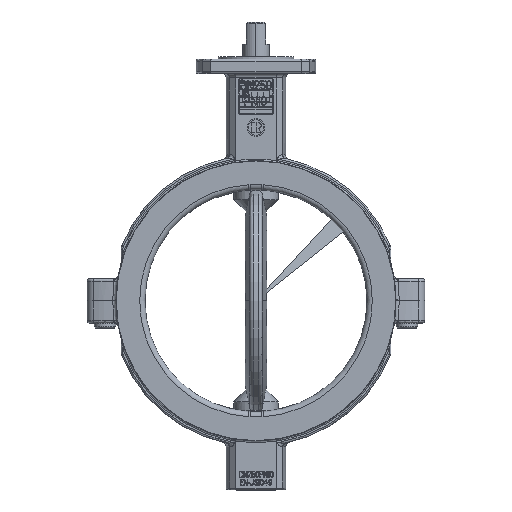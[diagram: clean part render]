
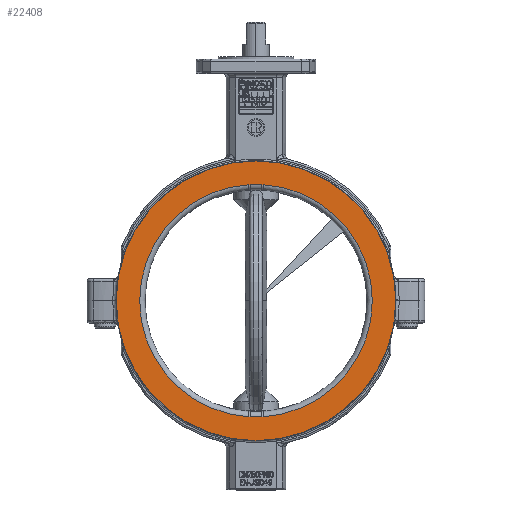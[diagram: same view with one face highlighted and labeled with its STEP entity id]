
A CAD part, top view. The second image highlights one B-rep face of the part: STEP entity #22408.
In plain terms, the highlighted planar face has unit normal (0, 0, 1).
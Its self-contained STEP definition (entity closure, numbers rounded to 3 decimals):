
#622=CARTESIAN_POINT('',(0.,0.,34.));
#623=DIRECTION('',(0.,0.,-1.));
#624=DIRECTION('',(-1.,0.,0.));
#625=AXIS2_PLACEMENT_3D('',#622,#623,#624);
#627=CARTESIAN_POINT('',(0.,0.,34.));
#628=DIRECTION('',(0.,0.,1.));
#629=DIRECTION('',(-1.,0.,0.));
#630=AXIS2_PLACEMENT_3D('',#627,#628,#629);
#632=CARTESIAN_POINT('',(-6.364,-130.789,34.));
#633=CARTESIAN_POINT('',(-6.708,-130.789,34.));
#634=CARTESIAN_POINT('',(-7.396,-130.781,34.));
#635=CARTESIAN_POINT('',(-8.082,-130.751,34.));
#636=CARTESIAN_POINT('',(-8.425,-130.729,34.));
#638=DIRECTION('',(-1.,0.,0.));
#639=VECTOR('',#638,12.728);
#640=CARTESIAN_POINT('',(6.364,-130.789,34.));
#641=LINE('',#640,#639);
#642=CARTESIAN_POINT('',(8.425,-130.729,34.));
#643=CARTESIAN_POINT('',(8.083,-130.751,34.));
#644=CARTESIAN_POINT('',(7.397,-130.781,34.));
#645=CARTESIAN_POINT('',(6.709,-130.789,34.));
#646=CARTESIAN_POINT('',(6.364,-130.789,34.));
#648=CARTESIAN_POINT('',(6.364,130.789,34.));
#649=CARTESIAN_POINT('',(6.709,130.789,34.));
#650=CARTESIAN_POINT('',(7.397,130.781,34.));
#651=CARTESIAN_POINT('',(8.083,130.751,34.));
#652=CARTESIAN_POINT('',(8.425,130.729,34.));
#654=DIRECTION('',(1.,0.,0.));
#655=VECTOR('',#654,12.728);
#656=CARTESIAN_POINT('',(-6.364,130.789,34.));
#657=LINE('',#656,#655);
#658=CARTESIAN_POINT('',(-8.425,130.729,34.));
#659=CARTESIAN_POINT('',(-8.082,130.751,34.));
#660=CARTESIAN_POINT('',(-7.396,130.781,34.));
#661=CARTESIAN_POINT('',(-6.708,130.789,34.));
#662=CARTESIAN_POINT('',(-6.364,130.789,34.));
#16433=CARTESIAN_POINT('',(0.,0.,34.));
#16434=DIRECTION('',(0.,0.,-1.));
#16435=DIRECTION('',(-0.064,-0.998,0.));
#16436=AXIS2_PLACEMENT_3D('',#16433,#16434,#16435);
#16463=CARTESIAN_POINT('',(0.,0.,34.));
#16464=DIRECTION('',(0.,0.,-1.));
#16465=DIRECTION('',(0.064,0.998,0.));
#16466=AXIS2_PLACEMENT_3D('',#16463,#16464,#16465);
#19785=CARTESIAN_POINT('',(-157.5,0.,34.));
#19786=CARTESIAN_POINT('',(157.5,0.,34.));
#19787=VERTEX_POINT('',#19785);
#19788=VERTEX_POINT('',#19786);
#19803=VERTEX_POINT('',#642);
#19804=VERTEX_POINT('',#646);
#19807=CARTESIAN_POINT('',(-6.364,-130.789,
34.));
#19808=VERTEX_POINT('',#19807);
#19811=VERTEX_POINT('',#636);
#19813=VERTEX_POINT('',#658);
#19814=VERTEX_POINT('',#662);
#19817=CARTESIAN_POINT('',(6.364,130.789,34.));
#19818=VERTEX_POINT('',#19817);
#19821=VERTEX_POINT('',#652);
#22380=CARTESIAN_POINT('',(0.,126.75,34.));
#22381=DIRECTION('',(0.,0.,-1.));
#22382=DIRECTION('',(0.,1.,0.));
#22383=AXIS2_PLACEMENT_3D('',#22380,#22381,#22382);
#22384=PLANE('',#22383);
#22386=ORIENTED_EDGE('',*,*,#22385,.T.);
#22388=ORIENTED_EDGE('',*,*,#22387,.F.);
#22389=EDGE_LOOP('',(#22386,#22388));
#22390=FACE_OUTER_BOUND('',#22389,.F.);
#22392=ORIENTED_EDGE('',*,*,#22391,.F.);
#22394=ORIENTED_EDGE('',*,*,#22393,.F.);
#22396=ORIENTED_EDGE('',*,*,#22395,.F.);
#22397=ORIENTED_EDGE('',*,*,#22370,.F.);
#22399=ORIENTED_EDGE('',*,*,#22398,.F.);
#22401=ORIENTED_EDGE('',*,*,#22400,.F.);
#22403=ORIENTED_EDGE('',*,*,#22402,.F.);
#22405=ORIENTED_EDGE('',*,*,#22404,.F.);
#22406=EDGE_LOOP('',(#22392,#22394,#22396,#22397,#22399,#22401,#22403,#22405));
#22407=FACE_BOUND('',#22406,.F.);
#22408=ADVANCED_FACE('',(#22390,#22407),#22384,.F.);
#626=CIRCLE('',#625,157.5);
#631=CIRCLE('',#630,157.5);
#637=B_SPLINE_CURVE_WITH_KNOTS('',3,(#632,#633,#634,#635,#636),.UNSPECIFIED.,
.F.,.F.,(4,1,4),(0.,0.5,1.),.UNSPECIFIED.);
#647=B_SPLINE_CURVE_WITH_KNOTS('',3,(#642,#643,#644,#645,#646),.UNSPECIFIED.,
.F.,.F.,(4,1,4),(0.,0.5,1.),.UNSPECIFIED.);
#653=B_SPLINE_CURVE_WITH_KNOTS('',3,(#648,#649,#650,#651,#652),.UNSPECIFIED.,
.F.,.F.,(4,1,4),(0.,0.5,1.),.UNSPECIFIED.);
#663=B_SPLINE_CURVE_WITH_KNOTS('',3,(#658,#659,#660,#661,#662),.UNSPECIFIED.,
.F.,.F.,(4,1,4),(0.,0.5,1.),.UNSPECIFIED.);
#16437=CIRCLE('',#16436,131.);
#16467=CIRCLE('',#16466,131.);
#22370=EDGE_CURVE('',#19803,#19804,#647,.T.);
#22385=EDGE_CURVE('',#19787,#19788,#626,.T.);
#22387=EDGE_CURVE('',#19787,#19788,#631,.T.);
#22391=EDGE_CURVE('',#19811,#19813,#16437,.T.);
#22393=EDGE_CURVE('',#19808,#19811,#637,.T.);
#22395=EDGE_CURVE('',#19804,#19808,#641,.T.);
#22398=EDGE_CURVE('',#19821,#19803,#16467,.T.);
#22400=EDGE_CURVE('',#19818,#19821,#653,.T.);
#22402=EDGE_CURVE('',#19814,#19818,#657,.T.);
#22404=EDGE_CURVE('',#19813,#19814,#663,.T.);
